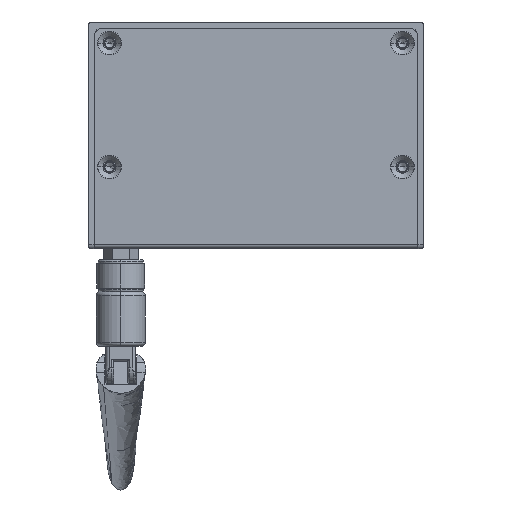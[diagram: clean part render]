
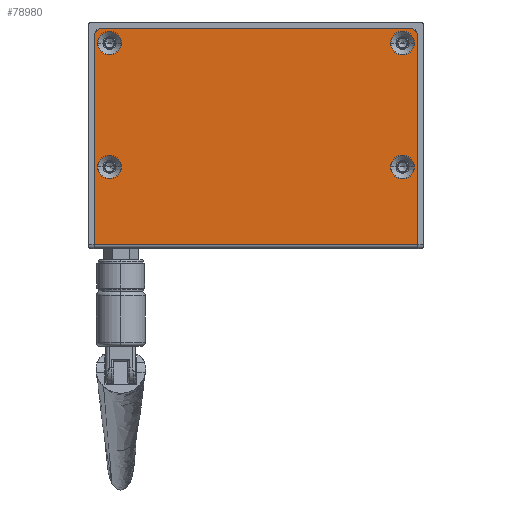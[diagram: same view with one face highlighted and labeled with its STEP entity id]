
A CAD part, front view. The second image highlights one B-rep face of the part: STEP entity #78980.
In plain terms, the highlighted planar face has unit normal (0, -1, 0) as drawn and (0, 0, 1) by its records, which use the part's own axes.
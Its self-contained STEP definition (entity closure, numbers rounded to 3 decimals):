
#103 = ORIENTED_EDGE ( 'NONE', *, *, #1955, .F. ) ;
#627 = CARTESIAN_POINT ( 'NONE',  ( 0.5, 57.1, -1.7 ) ) ;
#874 = LINE ( 'NONE', #33790, #124162 ) ;
#1955 = EDGE_CURVE ( 'NONE', #17564, #145227, #128740, .T. ) ;
#2628 = AXIS2_PLACEMENT_3D ( 'NONE', #129598, #8462, #58324 ) ;
#3689 = LINE ( 'NONE', #37684, #215493 ) ;
#4250 = DIRECTION ( 'NONE',  ( 1., 0., 0. ) ) ;
#8462 = DIRECTION ( 'NONE',  ( 0., 0., 1. ) ) ;
#11940 = DIRECTION ( 'NONE',  ( 0., 0., 1. ) ) ;
#13116 = CARTESIAN_POINT ( 'NONE',  ( -83.5, -0.4, -1.7 ) ) ;
#16355 = CIRCLE ( 'NONE', #168279, 3.1 ) ;
#16415 = AXIS2_PLACEMENT_3D ( 'NONE', #38473, #158467, #73568 ) ;
#16531 = DIRECTION ( 'NONE',  ( 0., -1., 0. ) ) ;
#17479 = ORIENTED_EDGE ( 'NONE', *, *, #144394, .T. ) ;
#17564 = VERTEX_POINT ( 'NONE', #193542 ) ;
#19823 = VERTEX_POINT ( 'NONE', #41105 ) ;
#20598 = CIRCLE ( 'NONE', #2628, 3.1 ) ;
#21124 = ORIENTED_EDGE ( 'NONE', *, *, #102975, .T. ) ;
#23404 = DIRECTION ( 'NONE',  ( 0., 0., 1. ) ) ;
#24767 = CIRCLE ( 'NONE', #151298, 3.1 ) ;
#29297 = AXIS2_PLACEMENT_3D ( 'NONE', #203269, #11940, #220236 ) ;
#31350 = ORIENTED_EDGE ( 'NONE', *, *, #206136, .F. ) ;
#32253 = FACE_BOUND ( 'NONE', #215435, .T. ) ;
#33533 = LINE ( 'NONE', #627, #168741 ) ;
#33790 = CARTESIAN_POINT ( 'NONE',  ( 0., 57.1, -1.7 ) ) ;
#36108 = EDGE_CURVE ( 'NONE', #188709, #108636, #33533, .T. ) ;
#37153 = CARTESIAN_POINT ( 'NONE',  ( -84.6, 3.5, -1.7 ) ) ;
#37684 = CARTESIAN_POINT ( 'NONE',  ( -85.5, 0., -1.7 ) ) ;
#38473 = CARTESIAN_POINT ( 'NONE',  ( -1.5, 1.6, -1.7 ) ) ;
#40508 = VERTEX_POINT ( 'NONE', #213133 ) ;
#41022 = EDGE_CURVE ( 'NONE', #220711, #89167, #55864, .T. ) ;
#41105 = CARTESIAN_POINT ( 'NONE',  ( -85.5, 1.6, -1.7 ) ) ;
#48432 = DIRECTION ( 'NONE',  ( -1., 0., 0. ) ) ;
#49960 = ORIENTED_EDGE ( 'NONE', *, *, #195960, .F. ) ;
#50287 = FACE_BOUND ( 'NONE', #138060, .T. ) ;
#50736 = DIRECTION ( 'NONE',  ( -1., 0., 0. ) ) ;
#55864 = CIRCLE ( 'NONE', #182406, 3.1 ) ;
#58006 = CARTESIAN_POINT ( 'NONE',  ( -84.6, 36.5, -1.7 ) ) ;
#58324 = DIRECTION ( 'NONE',  ( 1., 0., 0. ) ) ;
#62064 = VERTEX_POINT ( 'NONE', #13116 ) ;
#66206 = FACE_BOUND ( 'NONE', #137420, .T. ) ;
#67346 = CARTESIAN_POINT ( 'NONE',  ( 0., 0., -1.7 ) ) ;
#71148 = CARTESIAN_POINT ( 'NONE',  ( -83.5, 1.6, -1.7 ) ) ;
#72075 = EDGE_CURVE ( 'NONE', #145227, #17564, #24767, .T. ) ;
#73568 = DIRECTION ( 'NONE',  ( 1., 0., 0. ) ) ;
#77773 = CIRCLE ( 'NONE', #186195, 2. ) ;
#78980 = ADVANCED_FACE ( 'NONE', ( #66206, #50287, #137474, #32253, #85482 ), #222425, .T. ) ;
#79307 = VECTOR ( 'NONE', #48432, 1000. ) ;
#80738 = EDGE_CURVE ( 'NONE', #196011, #166543, #16355, .T. ) ;
#81144 = DIRECTION ( 'NONE',  ( 1., 0., 0. ) ) ;
#81949 = ORIENTED_EDGE ( 'NONE', *, *, #131812, .F. ) ;
#83942 = AXIS2_PLACEMENT_3D ( 'NONE', #89357, #193412, #158309 ) ;
#85482 = FACE_OUTER_BOUND ( 'NONE', #147784, .T. ) ;
#85918 = DIRECTION ( 'NONE',  ( 0., 0., 1. ) ) ;
#89167 = VERTEX_POINT ( 'NONE', #119966 ) ;
#89357 = CARTESIAN_POINT ( 'NONE',  ( -3.5, 36.5, -1.7 ) ) ;
#91374 = CARTESIAN_POINT ( 'NONE',  ( -3.5, 36.5, -1.7 ) ) ;
#94985 = ORIENTED_EDGE ( 'NONE', *, *, #170575, .F. ) ;
#101324 = DIRECTION ( 'NONE',  ( 0., 0., 1. ) ) ;
#102975 = EDGE_CURVE ( 'NONE', #19823, #62064, #77773, .T. ) ;
#103575 = DIRECTION ( 'NONE',  ( 0., 0., 1. ) ) ;
#106193 = DIRECTION ( 'NONE',  ( 0., 0., 1. ) ) ;
#106584 = ORIENTED_EDGE ( 'NONE', *, *, #80738, .F. ) ;
#108454 = CARTESIAN_POINT ( 'NONE',  ( -81.5, 36.5, -1.7 ) ) ;
#108636 = VERTEX_POINT ( 'NONE', #161005 ) ;
#113163 = AXIS2_PLACEMENT_3D ( 'NONE', #67346, #101324, #170353 ) ;
#114045 = CIRCLE ( 'NONE', #16415, 2. ) ;
#118136 = VERTEX_POINT ( 'NONE', #208320 ) ;
#119729 = CARTESIAN_POINT ( 'NONE',  ( 0.5, -0.4, -1.7 ) ) ;
#119966 = CARTESIAN_POINT ( 'NONE',  ( -78.4, 3.5, -1.7 ) ) ;
#124162 = VECTOR ( 'NONE', #50736, 1000. ) ;
#124957 = CARTESIAN_POINT ( 'NONE',  ( -3.5, 3.5, -1.7 ) ) ;
#126840 = CIRCLE ( 'NONE', #29297, 3.1 ) ;
#128740 = CIRCLE ( 'NONE', #139578, 3.1 ) ;
#129598 = CARTESIAN_POINT ( 'NONE',  ( -3.5, 3.5, -1.7 ) ) ;
#131607 = CARTESIAN_POINT ( 'NONE',  ( -81.5, 36.5, -1.7 ) ) ;
#131812 = EDGE_CURVE ( 'NONE', #166543, #196011, #181476, .T. ) ;
#134431 = ORIENTED_EDGE ( 'NONE', *, *, #222898, .T. ) ;
#137420 = EDGE_LOOP ( 'NONE', ( #31350, #203846 ) ) ;
#137474 = FACE_BOUND ( 'NONE', #163908, .T. ) ;
#138060 = EDGE_LOOP ( 'NONE', ( #103, #167492 ) ) ;
#138670 = AXIS2_PLACEMENT_3D ( 'NONE', #124957, #103575, #172589 ) ;
#139578 = AXIS2_PLACEMENT_3D ( 'NONE', #131607, #180346, #167837 ) ;
#141787 = DIRECTION ( 'NONE',  ( 0., 1., 0. ) ) ;
#144394 = EDGE_CURVE ( 'NONE', #155995, #108636, #114045, .T. ) ;
#145227 = VERTEX_POINT ( 'NONE', #58006 ) ;
#147434 = CARTESIAN_POINT ( 'NONE',  ( -1.5, -0.4, -1.7 ) ) ;
#147784 = EDGE_LOOP ( 'NONE', ( #204923, #21124, #49960, #17479, #221881, #134431 ) ) ;
#150151 = DIRECTION ( 'NONE',  ( 0., 0., 1. ) ) ;
#151298 = AXIS2_PLACEMENT_3D ( 'NONE', #108454, #106193, #179717 ) ;
#153089 = CIRCLE ( 'NONE', #138670, 3.1 ) ;
#155995 = VERTEX_POINT ( 'NONE', #147434 ) ;
#158309 = DIRECTION ( 'NONE',  ( 1., 0., 0. ) ) ;
#158467 = DIRECTION ( 'NONE',  ( 0., 0., 1. ) ) ;
#161005 = CARTESIAN_POINT ( 'NONE',  ( 0.5, 1.6, -1.7 ) ) ;
#163908 = EDGE_LOOP ( 'NONE', ( #106584, #81949 ) ) ;
#166543 = VERTEX_POINT ( 'NONE', #167985 ) ;
#167150 = CARTESIAN_POINT ( 'NONE',  ( -81.5, 3.5, -1.7 ) ) ;
#167492 = ORIENTED_EDGE ( 'NONE', *, *, #72075, .F. ) ;
#167723 = VERTEX_POINT ( 'NONE', #178016 ) ;
#167837 = DIRECTION ( 'NONE',  ( 1., 0., 0. ) ) ;
#167985 = CARTESIAN_POINT ( 'NONE',  ( -6.6, 36.5, -1.7 ) ) ;
#168279 = AXIS2_PLACEMENT_3D ( 'NONE', #91374, #23404, #179601 ) ;
#168741 = VECTOR ( 'NONE', #16531, 1000. ) ;
#169568 = CARTESIAN_POINT ( 'NONE',  ( -0.4, 36.5, -1.7 ) ) ;
#170353 = DIRECTION ( 'NONE',  ( 1., 0., 0. ) ) ;
#170575 = EDGE_CURVE ( 'NONE', #167723, #40508, #153089, .T. ) ;
#172589 = DIRECTION ( 'NONE',  ( 1., 0., 0. ) ) ;
#178016 = CARTESIAN_POINT ( 'NONE',  ( -0.4, 3.5, -1.7 ) ) ;
#179601 = DIRECTION ( 'NONE',  ( 1., 0., 0. ) ) ;
#179717 = DIRECTION ( 'NONE',  ( 1., 0., 0. ) ) ;
#180346 = DIRECTION ( 'NONE',  ( 0., 0., 1. ) ) ;
#181305 = ORIENTED_EDGE ( 'NONE', *, *, #212698, .F. ) ;
#181476 = CIRCLE ( 'NONE', #83942, 3.1 ) ;
#182406 = AXIS2_PLACEMENT_3D ( 'NONE', #167150, #150151, #81144 ) ;
#182930 = CARTESIAN_POINT ( 'NONE',  ( 0.5, 57.1, -1.7 ) ) ;
#186195 = AXIS2_PLACEMENT_3D ( 'NONE', #71148, #85918, #4250 ) ;
#188709 = VERTEX_POINT ( 'NONE', #182930 ) ;
#193412 = DIRECTION ( 'NONE',  ( 0., 0., 1. ) ) ;
#193542 = CARTESIAN_POINT ( 'NONE',  ( -78.4, 36.5, -1.7 ) ) ;
#195960 = EDGE_CURVE ( 'NONE', #155995, #62064, #206898, .T. ) ;
#196011 = VERTEX_POINT ( 'NONE', #169568 ) ;
#201290 = EDGE_CURVE ( 'NONE', #19823, #118136, #3689, .T. ) ;
#203269 = CARTESIAN_POINT ( 'NONE',  ( -81.5, 3.5, -1.7 ) ) ;
#203846 = ORIENTED_EDGE ( 'NONE', *, *, #41022, .F. ) ;
#204923 = ORIENTED_EDGE ( 'NONE', *, *, #201290, .F. ) ;
#206136 = EDGE_CURVE ( 'NONE', #89167, #220711, #126840, .T. ) ;
#206898 = LINE ( 'NONE', #119729, #79307 ) ;
#208320 = CARTESIAN_POINT ( 'NONE',  ( -85.5, 57.1, -1.7 ) ) ;
#212698 = EDGE_CURVE ( 'NONE', #40508, #167723, #20598, .T. ) ;
#213133 = CARTESIAN_POINT ( 'NONE',  ( -6.6, 3.5, -1.7 ) ) ;
#215435 = EDGE_LOOP ( 'NONE', ( #94985, #181305 ) ) ;
#215493 = VECTOR ( 'NONE', #141787, 1000. ) ;
#220236 = DIRECTION ( 'NONE',  ( 1., 0., 0. ) ) ;
#220711 = VERTEX_POINT ( 'NONE', #37153 ) ;
#221881 = ORIENTED_EDGE ( 'NONE', *, *, #36108, .F. ) ;
#222425 = PLANE ( 'NONE',  #113163 ) ;
#222898 = EDGE_CURVE ( 'NONE', #188709, #118136, #874, .T. ) ;
